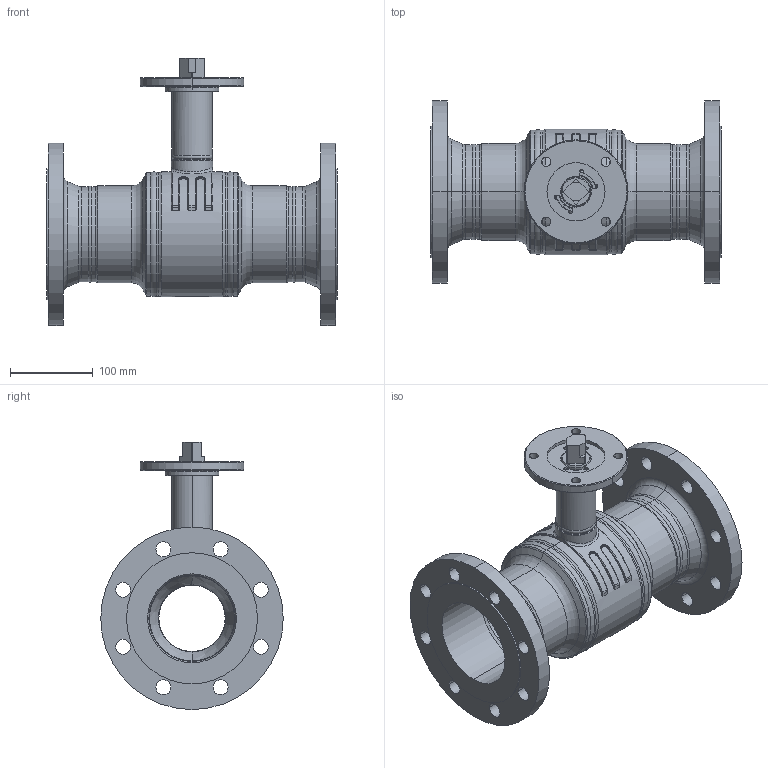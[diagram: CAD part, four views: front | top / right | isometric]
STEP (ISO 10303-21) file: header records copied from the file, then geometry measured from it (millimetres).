
FILE_DESCRIPTION((''),'2;1');
FILE_NAME('KHMO-F-R-H-100R080P01_SW0001','2025-04-23T08:31:09',('jeitlers'),('KLINGER'),'CREO PARAMETRIC BY PTC INC, 2023014','CREO PARAMETRIC BY PTC INC, 2023014','');
FILE_SCHEMA(('CONFIG_CONTROL_DESIGN'));
Length unit declared in the file: millimetre
Products named in the file (1): KHMO-F-R-H-100R080P01_SW0001
Bounding box: 350 x 220 x 322 mm (x, y, z)
Volume: 2675170.3 mm3; surface area: 556216.7 mm2
Topology: 3 solids, 3 shells, 501 faces, 1189 edges, 722 vertices
Faces by surface type: cylinder 198, torus 106, plane 87, cone 82, bspline 28
Entity records: 21580 total; most frequent: CARTESIAN_POINT 9571, DIRECTION 2759, ORIENTED_EDGE 2378, EDGE_CURVE 1189, AXIS2_PLACEMENT_3D 1179, VERTEX_POINT 722, CIRCLE 706, EDGE_LOOP 579
